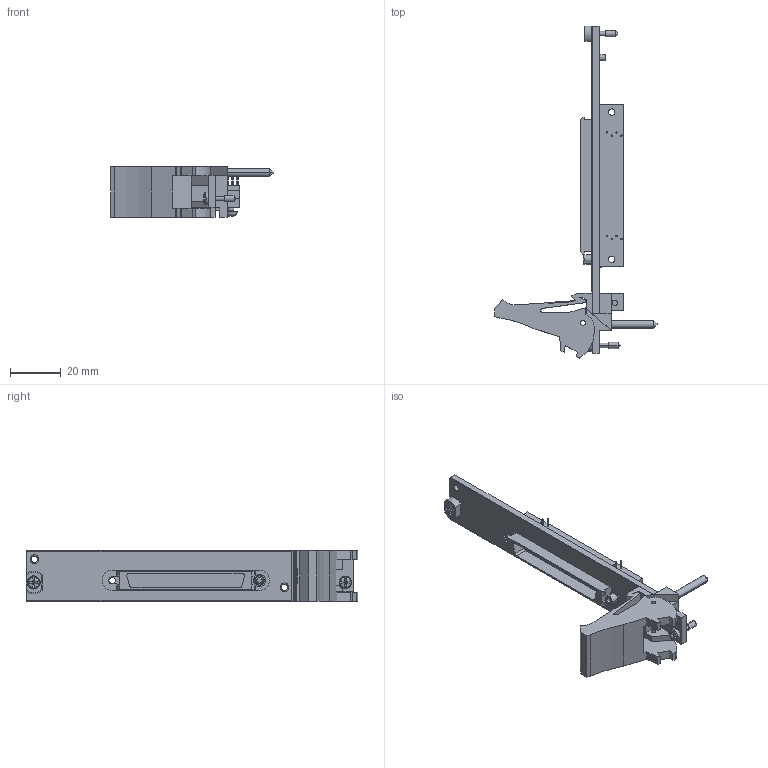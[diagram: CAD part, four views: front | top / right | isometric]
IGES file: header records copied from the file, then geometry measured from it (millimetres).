
Start section:  PTC IGES file: cu_pxi-2533.igs
Global section: file name: cu_pxi-2533.igs; native system: Pro/ENGINEER by Parametric Technology Corporation; preprocessor: 2006080; author: jjorden; organization: Unknown; date: 090908.100627; units: inch
Bounding box: 63.73 x 130.51 x 20.02 mm (x, y, z)
Surface area: 15855.6 mm2 (no closed solid volume)
Topology: 0 solids, 0 shells, 451 faces, 2334 edges, 2326 vertices
Faces by surface type: bspline 305, revolution 146
